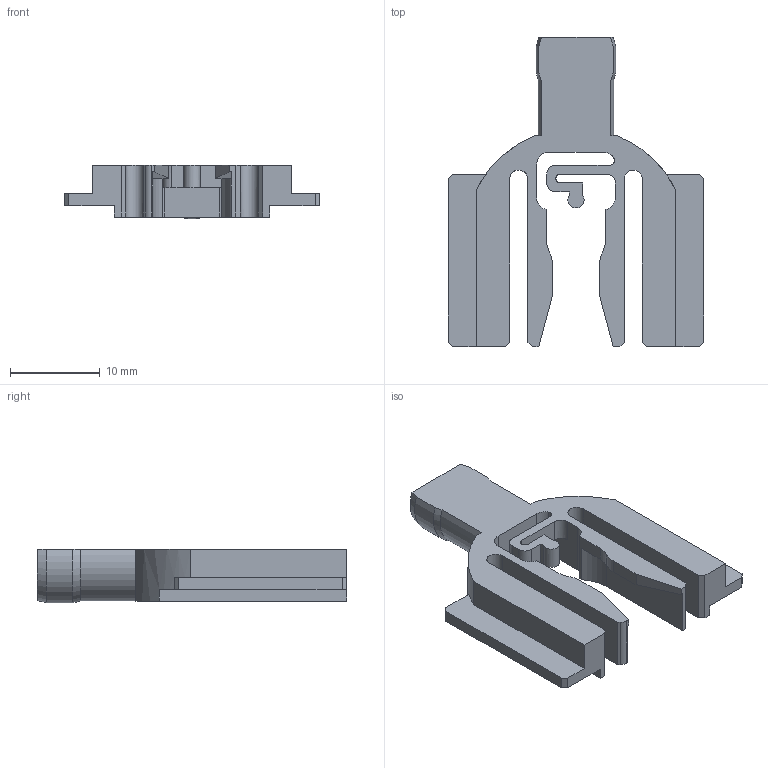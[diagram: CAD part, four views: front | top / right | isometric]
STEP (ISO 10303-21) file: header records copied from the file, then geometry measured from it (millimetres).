
FILE_DESCRIPTION(/* description */ (''),/* implementation_level */ '2;1');
FILE_NAME(/* name */ 'LM-2237-0260#-B.stp',/* time_stamp */ '2012-09-04T14:14:25+01:00',/* author */ (''),/* organization */ (''),/* preprocessor_version */ 'ST-DEVELOPER v11',/* originating_system */ 'SIEMENS PLM Software NX 7.5',/* authorisation */ '');
FILE_SCHEMA (('AUTOMOTIVE_DESIGN { 1 0 10303 214 1 1 1 1 }'));
Length unit declared in the file: millimetre
Products named in the file (1): rt133622tjp1
Bounding box: 28.5 x 34.5 x 6 mm (x, y, z)
Volume: 1920.5 mm3; surface area: 2333.7 mm2
Topology: 1 solids, 1 shells, 80 faces, 236 edges, 158 vertices
Faces by surface type: plane 52, cylinder 23, bspline 3, cone 2
Entity records: 2764 total; most frequent: CARTESIAN_POINT 701, ORIENTED_EDGE 472, DIRECTION 362, EDGE_CURVE 236, VERTEX_POINT 158, LINE 140, VECTOR 140, AXIS2_PLACEMENT_3D 111
